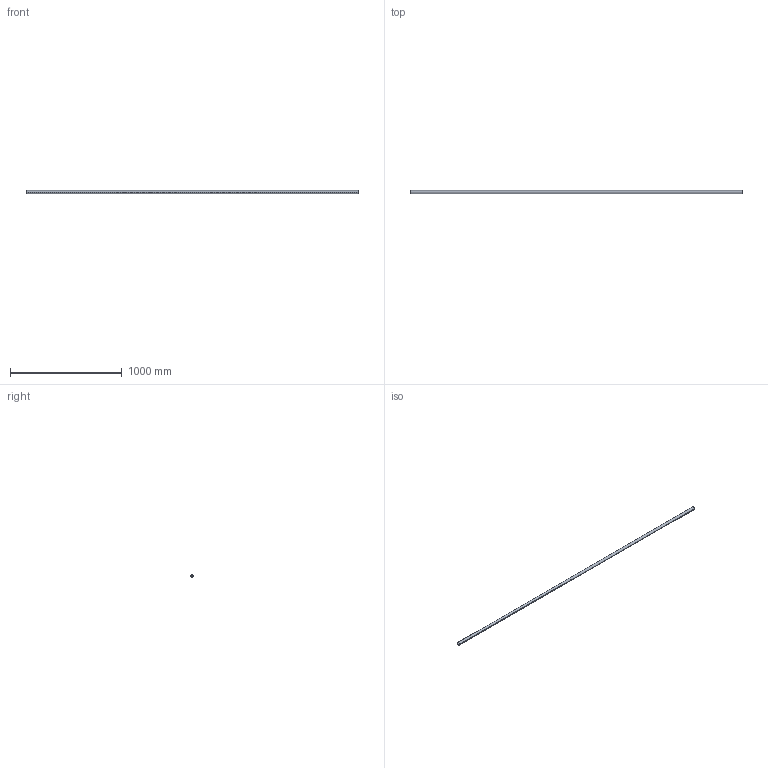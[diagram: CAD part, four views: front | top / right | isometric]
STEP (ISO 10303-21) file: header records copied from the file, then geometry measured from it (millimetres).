
FILE_DESCRIPTION (( 'STEP AP214' ), '1' );
FILE_NAME ('CCJ029-REP.212 - LISSE PLANCHER INFERIEUR C2-C3.STEP', '2024-01-11T12:39:44', ( '' ), ( '' ), 'SwSTEP 2.0', 'SolidWorks 2021', '' );
FILE_SCHEMA (( 'AUTOMOTIVE_DESIGN' ));
Length unit declared in the file: millimetre
Products named in the file (1): CCJ029-REP.212 - LISSE PLANCHER INFERIEUR C2-C3
Bounding box: 2969 x 26.9 x 26.9 mm (x, y, z)
Volume: 527743.6 mm3; surface area: 459263 mm2
Topology: 1 solids, 1 shells, 6 faces, 12 edges, 8 vertices
Faces by surface type: cylinder 4, plane 2
Entity records: 202 total; most frequent: DIRECTION 34, CARTESIAN_POINT 27, ORIENTED_EDGE 24, AXIS2_PLACEMENT_3D 15, EDGE_CURVE 12, VERTEX_POINT 8, CIRCLE 8, EDGE_LOOP 8
